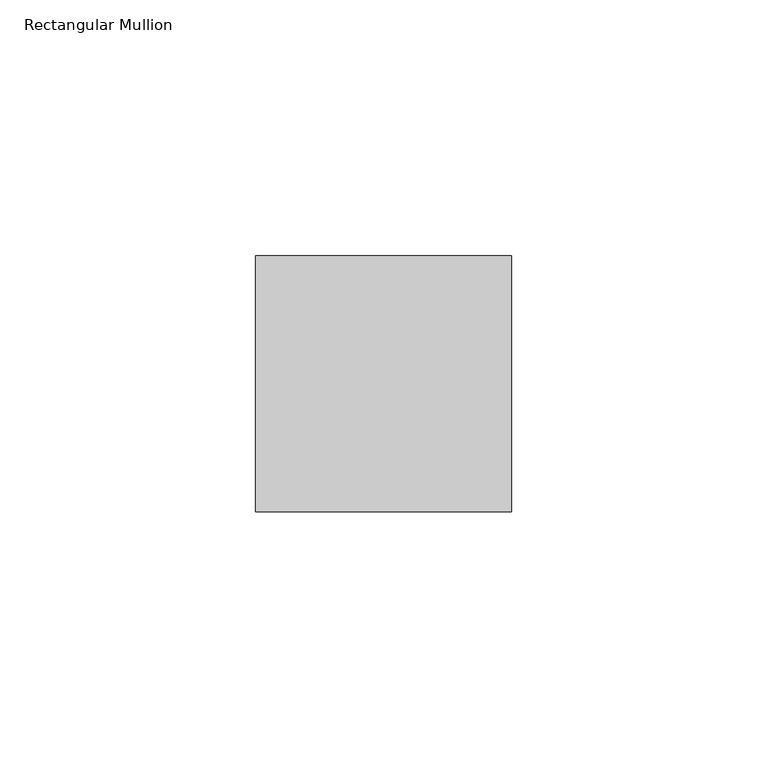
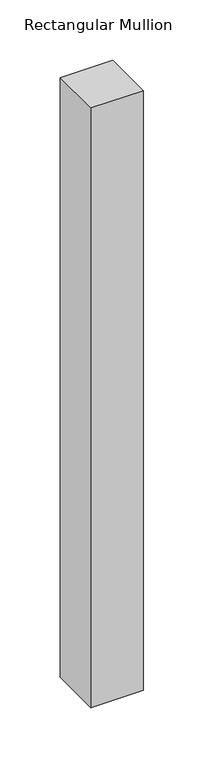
"""IFC4 building model written with IfcOpenShell, lengths in millimetres: member geometry, Rectangular Mullion : RSen_21_CWM_support profile 50x50 - left_gen_duco projects."""

import ifcopenshell
import ifcopenshell.guid

model = None  # the IFC model being written
_history = None  # IfcOwnerHistory: only IFC2X3 demands one
_inside = {}  # id of a spatial element -> (the spatial element, [elements in it])
_under = {}  # id of a project, library or spatial element -> (it, [spatial elements below it])
_declared = {}  # id of a project -> (the project, [libraries it declares])
_typed = {}  # id of a type object -> (the type object, [elements of that type])
_made_of = {}  # id of a material, layer set ... -> (it, [elements and type objects made of it])


def new_model(schema):
    """Start an empty IFC model of exactly this schema.

    Asked for "IFC4X3", IfcOpenShell would pick the latest addendum, in which some entities
    have other attributes; the version numbers below select the first issue.
    IFC2X3 requires an IfcOwnerHistory on every rooted entity: one is made here for all.
    """
    global model, _history
    if schema == "IFC4X3":
        model = ifcopenshell.file(schema_version=(4, 3, 0, 0))
    else:
        model = ifcopenshell.file(schema=schema)
    _inside.clear()
    _under.clear()
    _declared.clear()
    _typed.clear()
    _made_of.clear()
    _history = None
    if model.schema == "IFC2X3":
        org = make("IfcOrganization", Name="unknown")
        user = make(
            "IfcPersonAndOrganization",
            ThePerson=make("IfcPerson", FamilyName="unknown"),
            TheOrganization=org,
        )
        app = make(
            "IfcApplication",
            ApplicationDeveloper=org,
            Version="unknown",
            ApplicationFullName="unknown",
            ApplicationIdentifier="unknown",
        )
        _history = make(
            "IfcOwnerHistory",
            OwningUser=user,
            OwningApplication=app,
            ChangeAction="ADDED",
            CreationDate=0,
        )
    return model


def make(cls, **values):
    """One entity of the class cls with the attributes given. An attribute that is None is left unset."""
    return model.create_entity(
        cls, **{name: value for name, value in values.items() if value is not None}
    )


def rooted(cls, **values):
    """An entity with a GlobalId (a new one), such as an element, a storey or a relation."""
    return make(cls, GlobalId=ifcopenshell.guid.new(), OwnerHistory=_history, **values)


def si_unit(unit_type, name, prefix=None):
    """IfcSIUnit, for example si_unit("LENGTHUNIT", "METRE", prefix="MILLI")."""
    return make("IfcSIUnit", UnitType=unit_type, Prefix=prefix, Name=name)


def assignment(units):
    """IfcUnitAssignment: the units of a project."""
    return None if units is None else make("IfcUnitAssignment", Units=units)


def point(xyz):
    """IfcCartesianPoint."""
    return None if xyz is None else make("IfcCartesianPoint", Coordinates=xyz)


def direction(xyz):
    """IfcDirection."""
    return None if xyz is None else make("IfcDirection", DirectionRatios=xyz)


def frame(location, z_axis=None, x_axis=None):
    """IfcAxis2Placement3D, a coordinate frame: its origin and axes. An axis left out is left unset."""
    return make(
        "IfcAxis2Placement3D",
        Location=point(location),
        Axis=direction(z_axis),
        RefDirection=direction(x_axis),
    )


def origin():
    """The frame at (0, 0, 0) with its axes left unset."""
    return frame((0.0, 0.0, 0.0))


def place(relative_to, where):
    """IfcLocalPlacement: puts the frame where relative to a parent placement (None: the world)."""
    return make(
        "IfcLocalPlacement", PlacementRelTo=relative_to, RelativePlacement=where
    )


def context(
    kind, dimensions, precision=None, world=None, true_north=None, identifier=None
):
    """IfcGeometricRepresentationContext, for example the 3D "Model" context."""
    return make(
        "IfcGeometricRepresentationContext",
        ContextIdentifier=identifier,
        ContextType=kind,
        CoordinateSpaceDimension=dimensions,
        Precision=precision,
        WorldCoordinateSystem=world,
        TrueNorth=true_north,
    )


def project(units=None, contexts=None):
    """IfcProject with its units and contexts."""
    return rooted(
        "IfcProject",
        Name="project",
        RepresentationContexts=contexts,
        UnitsInContext=assignment(units),
    )


def spatial(cls, under=None, at=None, **own):
    """A site, building, storey or space (cls), placed at a placement, below another one or the project."""
    s = rooted(cls, ObjectPlacement=at, **own)
    if under is not None:
        _under.setdefault(under.id(), (under, []))[1].append(s)
    return s


def polyline(points):
    """IfcPolyline through the points."""
    return make("IfcPolyline", Points=[point(p) for p in points])


def outline(outer, holes=None, kind="AREA"):
    """IfcArbitraryClosedProfileDef: a profile drawn as a closed curve; with holes, ...WithVoids."""
    if holes is None:
        return make("IfcArbitraryClosedProfileDef", ProfileType=kind, OuterCurve=outer)
    return make(
        "IfcArbitraryProfileDefWithVoids",
        ProfileType=kind,
        OuterCurve=outer,
        InnerCurves=holes,
    )


def extrude(swept, where, along, depth):
    """IfcExtrudedAreaSolid: the profile swept, set in the frame where, extruded along a direction by depth."""
    return make(
        "IfcExtrudedAreaSolid",
        SweptArea=swept,
        Position=where,
        ExtrudedDirection=direction(along),
        Depth=depth,
    )


def shape(context_of_items, identifier, shape_type, items):
    """IfcShapeRepresentation: the items that make up one representation, for example the "Body"."""
    return make(
        "IfcShapeRepresentation",
        ContextOfItems=context_of_items,
        RepresentationIdentifier=identifier,
        RepresentationType=shape_type,
        Items=items,
    )


def source(mapping_origin, context_of_items, identifier, shape_type, items):
    """IfcRepresentationMap: a shape defined once, which mapped items show again and again."""
    return make(
        "IfcRepresentationMap",
        MappingOrigin=mapping_origin,
        MappedRepresentation=shape(context_of_items, identifier, shape_type, items),
    )


def transform(
    local_origin,
    x_axis=None,
    y_axis=None,
    z_axis=None,
    scale=None,
    scale2=None,
    scale3=None,
    uniform=True,
):
    """IfcCartesianTransformationOperator3D, or its non-uniform kind. x_axis, y_axis, z_axis: its Axis1, 2, 3."""
    if uniform:
        return make(
            "IfcCartesianTransformationOperator3D",
            Axis1=direction(x_axis),
            Axis2=direction(y_axis),
            LocalOrigin=point(local_origin),
            Scale=scale,
            Axis3=direction(z_axis),
        )
    return make(
        "IfcCartesianTransformationOperator3DnonUniform",
        Axis1=direction(x_axis),
        Axis2=direction(y_axis),
        LocalOrigin=point(local_origin),
        Scale=scale,
        Axis3=direction(z_axis),
        Scale2=scale2,
        Scale3=scale3,
    )


def mapped(mapping_source, mapping_target):
    """IfcMappedItem: shows the shape of a source again, moved by a transform."""
    return make(
        "IfcMappedItem", MappingSource=mapping_source, MappingTarget=mapping_target
    )


def made_of(thing, what):
    """Note that an element or type object is made of a material, layer set ...; save() writes the relation."""
    if what is not None:
        _made_of.setdefault(what.id(), (what, []))[1].append(thing)
    return thing


def element(
    cls,
    number,
    at=None,
    inside=None,
    cuts=None,
    type_object=None,
    material=None,
    context=None,
    identifier="Body",
    shape_type=None,
    held_by="IfcProductDefinitionShape",
    body=None,
    shapes=None,
    **own,
):
    """One element of the class cls, such as IfcWall. Its Tag is "e" and its number.

    at: its placement. inside: the storey or other place that contains it. cuts: it is an
    opening in that element (IfcRelVoidsElement). A single representation is given by context,
    identifier, shape_type and body (its items); several are given by shapes. held_by: the class
    of the entity that holds the representations. save() writes the other relations.
    """
    e = rooted(cls, Tag="e%d" % number, ObjectPlacement=at, **own)
    if body is not None:
        shapes = [shape(context, identifier, shape_type, body)]
    if shapes is not None:
        e.Representation = make(held_by, Representations=shapes)
    if inside is not None:
        _inside.setdefault(inside.id(), (inside, []))[1].append(e)
    if cuts is not None:
        rooted(
            "IfcRelVoidsElement", RelatingBuildingElement=cuts, RelatedOpeningElement=e
        )
    if type_object is not None:
        _typed.setdefault(type_object.id(), (type_object, []))[1].append(e)
    return made_of(e, material)


def aggregate(whole, parts):
    """IfcRelAggregates: a whole, such as a stair, and the parts it consists of."""
    return rooted("IfcRelAggregates", RelatingObject=whole, RelatedObjects=parts)


def save(model, path):
    """Write the relations noted so far, then the file.

    IfcRelAggregates (storeys below a building ...), IfcRelContainedInSpatialStructure (elements
    in a storey), IfcRelDefinesByType, IfcRelAssociatesMaterial and IfcRelDeclares: one each for
    every whole, place, type object, material and project.
    """
    for whole, parts in _under.values():
        aggregate(whole, parts)
    for where, things in _inside.values():
        rooted(
            "IfcRelContainedInSpatialStructure",
            RelatedElements=things,
            RelatingStructure=where,
        )
    for kind, things in _typed.values():
        rooted("IfcRelDefinesByType", RelatedObjects=things, RelatingType=kind)
    for what, things in _made_of.values():
        rooted("IfcRelAssociatesMaterial", RelatedObjects=things, RelatingMaterial=what)
    for by, libraries in _declared.values():
        rooted("IfcRelDeclares", RelatingContext=by, RelatedDefinitions=libraries)
    model.write(path)


def rectangular_mullion_1c998518(model_context):
    return source(origin(), model_context, "Body", "SweptSolid", [
        extrude(outline(polyline([(0.0, 1.0), (0.0, -49.0), (-50.0, -49.0), (-50.0, 1.0), (0.0, 1.0)])), frame((0.0, 0.0, -605.0), z_axis=(0.0, 0.0, 1.0), x_axis=(1.0, 0.0, 0.0)), (0.0, 0.0, 1.0), 605.0),
    ])


if __name__ == "__main__":
    model = new_model("IFC4")
    model_context = context("Model", 3, world=origin())
    ifc_project = project(units=[si_unit("LENGTHUNIT", "METRE", prefix="MILLI")], contexts=[model_context])
    site = spatial("IfcSite", under=ifc_project)
    building = spatial("IfcBuilding", under=site)
    placement = place(None, origin())
    rectangular_mullion_shape = rectangular_mullion_1c998518(model_context)
    element("IfcMember", 1, ObjectType="Rectangular Mullion : RSen_21_CWM_support profile 50x50 - left_gen_duco projects", at=placement, inside=building, context=model_context, shape_type="MappedRepresentation", body=[
        mapped(rectangular_mullion_shape, transform((0.0, 0.0, 0.0), x_axis=(1.0, 0.0, 0.0), y_axis=(0.0, 1.0, 0.0), z_axis=(0.0, 0.0, 1.0))),
    ])
    save(model, "model.ifc")
